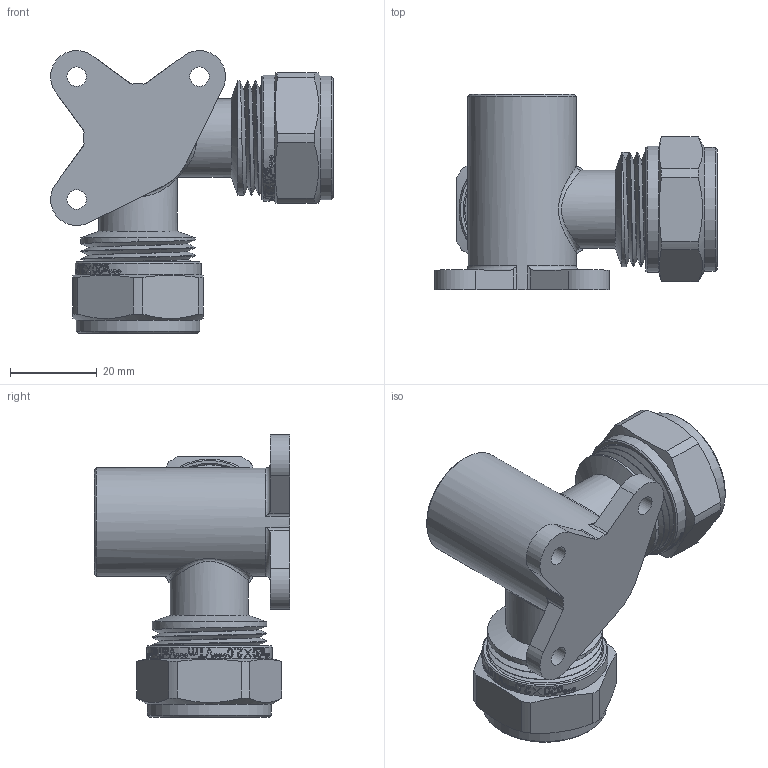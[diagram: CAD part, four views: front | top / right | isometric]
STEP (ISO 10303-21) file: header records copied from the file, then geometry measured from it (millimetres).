
FILE_DESCRIPTION(/* description */ (''),/* implementation_level */ '2;1');
FILE_NAME(/* name */ 'F:\Артём\00000\Работа удаленка\Обжимные фитинги\VTm.334.N.200420.stp',/* time_stamp */ '2020-07-30T15:06:35+03:00',/* author */ ('almis'),/* organization */ (''),/* preprocessor_version */ 'ST-DEVELOPER v18',/* originating_system */ 'Autodesk Inventor 2020',/* authorisation */ '');
FILE_SCHEMA (('AUTOMOTIVE_DESIGN { 1 0 10303 214 3 1 1 }'));
Products named in the file (1): VTm.334.N.200420
Bounding box: 65.12 x 45 x 65.12 mm (x, y, z)
Volume: 34828 mm3; surface area: 25859.2 mm2
Topology: 1 solids, 3 shells, 1256 faces, 3522 edges, 2378 vertices
Faces by surface type: bspline 690, plane 332, cylinder 158, torus 49, cone 27
Full cylindrical faces by diameter (mm): 4.5 x3, 11.5 x2, 13.4 x4, 15.75 x8, 18 x2, 18.6 x1, 19.986 x8, 20.2 x2, 20.728 x10, 21 x2, 22.8 x4, 23.201 x2, 24.2 x2, 25 x1, 26.4 x4, 28.5 x2, 29 x2
Entity records: 53043 total; most frequent: CARTESIAN_POINT 24834, ORIENTED_EDGE 7046, DIRECTION 3812, EDGE_CURVE 3523, VERTEX_POINT 2380, LINE 1456, VECTOR 1456, B_SPLINE_CURVE_WITH_KNOTS 1432
